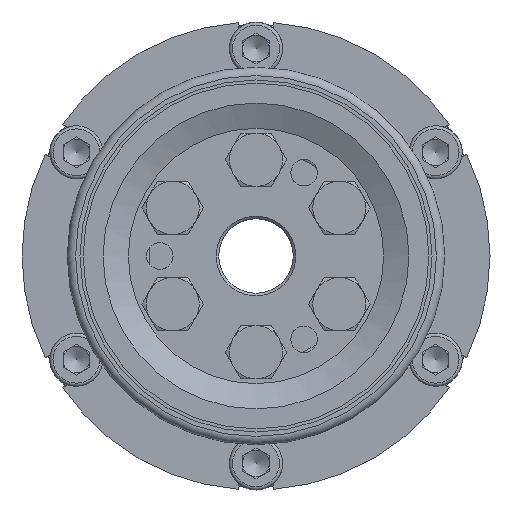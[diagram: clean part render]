
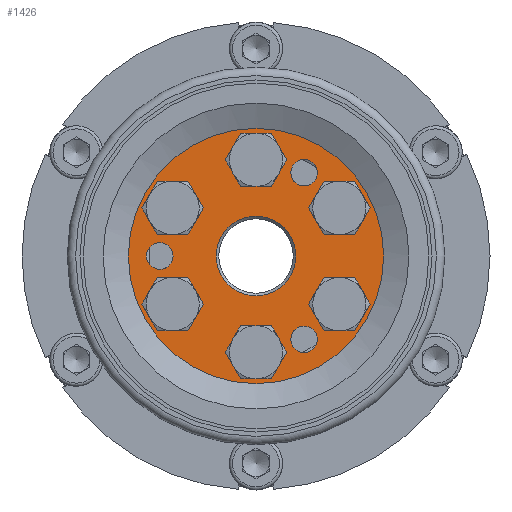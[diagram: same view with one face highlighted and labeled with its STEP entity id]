
A CAD part, left-side view. The second image highlights one B-rep face of the part: STEP entity #1426.
In plain terms, the highlighted planar face has unit normal (-1, 0, 0).
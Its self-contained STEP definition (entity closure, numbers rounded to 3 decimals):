
#1426 = ADVANCED_FACE( '', ( #3212, #3213, #3214, #3215, #3216, #3217, #3218, #3219, #3220, #3221, #3222 ), #3223, .T. );
#3212 = FACE_BOUND( '', #5262, .T. );
#3213 = FACE_OUTER_BOUND( '', #5263, .T. );
#3214 = FACE_BOUND( '', #5264, .T. );
#3215 = FACE_BOUND( '', #5265, .T. );
#3216 = FACE_BOUND( '', #5266, .T. );
#3217 = FACE_BOUND( '', #5267, .T. );
#3218 = FACE_BOUND( '', #5268, .T. );
#3219 = FACE_BOUND( '', #5269, .T. );
#3220 = FACE_BOUND( '', #5270, .T. );
#3221 = FACE_BOUND( '', #5271, .T. );
#3222 = FACE_BOUND( '', #5272, .T. );
#3223 = PLANE( '', #5273 );
#5262 = EDGE_LOOP( '', ( #9343 ) );
#5263 = EDGE_LOOP( '', ( #9344 ) );
#5264 = EDGE_LOOP( '', ( #9345 ) );
#5265 = EDGE_LOOP( '', ( #9346 ) );
#5266 = EDGE_LOOP( '', ( #9347 ) );
#5267 = EDGE_LOOP( '', ( #9348 ) );
#5268 = EDGE_LOOP( '', ( #9349 ) );
#5269 = EDGE_LOOP( '', ( #9350 ) );
#5270 = EDGE_LOOP( '', ( #9351 ) );
#5271 = EDGE_LOOP( '', ( #9352 ) );
#5272 = EDGE_LOOP( '', ( #9353 ) );
#5273 = AXIS2_PLACEMENT_3D( '', #9354, #9355, #9356 );
#9343 = ORIENTED_EDGE( '', *, *, #12387, .T. );
#9344 = ORIENTED_EDGE( '', *, *, #12067, .T. );
#9345 = ORIENTED_EDGE( '', *, *, #12388, .T. );
#9346 = ORIENTED_EDGE( '', *, *, #12199, .T. );
#9347 = ORIENTED_EDGE( '', *, *, #12389, .T. );
#9348 = ORIENTED_EDGE( '', *, *, #12177, .T. );
#9349 = ORIENTED_EDGE( '', *, *, #12390, .T. );
#9350 = ORIENTED_EDGE( '', *, *, #11569, .T. );
#9351 = ORIENTED_EDGE( '', *, *, #12391, .T. );
#9352 = ORIENTED_EDGE( '', *, *, #12392, .T. );
#9353 = ORIENTED_EDGE( '', *, *, #10805, .T. );
#9354 = CARTESIAN_POINT( '', ( -42.05, -2.75, 4.763 ) );
#9355 = DIRECTION( '', ( -1., 0., 0. ) );
#9356 = DIRECTION( '', ( 0., 1., 0. ) );
#10805 = EDGE_CURVE( '', #12681, #12681, #12682, .T. );
#11569 = EDGE_CURVE( '', #13969, #13969, #13970, .T. );
#12067 = EDGE_CURVE( '', #14688, #14688, #14689, .T. );
#12177 = EDGE_CURVE( '', #14837, #14837, #14838, .T. );
#12199 = EDGE_CURVE( '', #14868, #14868, #14869, .T. );
#12387 = EDGE_CURVE( '', #15099, #15099, #15100, .F. );
#12388 = EDGE_CURVE( '', #15101, #15101, #15102, .T. );
#12389 = EDGE_CURVE( '', #15103, #15103, #15104, .T. );
#12390 = EDGE_CURVE( '', #15105, #15105, #15106, .T. );
#12391 = EDGE_CURVE( '', #15107, #15107, #15108, .T. );
#12392 = EDGE_CURVE( '', #15109, #15109, #15110, .T. );
#12681 = VERTEX_POINT( '', #15429 );
#12682 = CIRCLE( '', #15430, 4.35 );
#13969 = VERTEX_POINT( '', #18342 );
#13970 = CIRCLE( '', #18343, 4.35 );
#14688 = VERTEX_POINT( '', #19972 );
#14689 = CIRCLE( '', #19973, 24. );
#14837 = VERTEX_POINT( '', #20238 );
#14838 = CIRCLE( '', #20239, 4.35 );
#14868 = VERTEX_POINT( '', #20284 );
#14869 = CIRCLE( '', #20285, 2.5 );
#15099 = VERTEX_POINT( '', #20675 );
#15100 = CIRCLE( '', #20676, 7.5 );
#15101 = VERTEX_POINT( '', #20677 );
#15102 = CIRCLE( '', #20678, 2.5 );
#15103 = VERTEX_POINT( '', #20679 );
#15104 = CIRCLE( '', #20680, 2.5 );
#15105 = VERTEX_POINT( '', #20681 );
#15106 = CIRCLE( '', #20682, 4.35 );
#15107 = VERTEX_POINT( '', #20683 );
#15108 = CIRCLE( '', #20684, 4.35 );
#15109 = VERTEX_POINT( '', #20685 );
#15110 = CIRCLE( '', #20686, 4.35 );
#15429 = CARTESIAN_POINT( '', ( -42.05, 15.675, -4.7 ) );
#15430 = AXIS2_PLACEMENT_3D( '', #21265, #21266, #21267 );
#18342 = CARTESIAN_POINT( '', ( -42.05, -15.675, 13.4 ) );
#18343 = AXIS2_PLACEMENT_3D( '', #22261, #22262, #22263 );
#19972 = CARTESIAN_POINT( '', ( -42.05, -12., 20.785 ) );
#19973 = AXIS2_PLACEMENT_3D( '', #22844, #22845, #22846 );
#20238 = CARTESIAN_POINT( '', ( -42.05, 0., 22.45 ) );
#20239 = AXIS2_PLACEMENT_3D( '', #22983, #22984, #22985 );
#20284 = CARTESIAN_POINT( '', ( -42.05, -6.885, 16.925 ) );
#20285 = AXIS2_PLACEMENT_3D( '', #23005, #23006, #23007 );
#20675 = CARTESIAN_POINT( '', ( -42.05, 0., 7.5 ) );
#20676 = AXIS2_PLACEMENT_3D( '', #23211, #23212, #23213 );
#20677 = CARTESIAN_POINT( '', ( -42.05, -11.215, -14.425 ) );
#20678 = AXIS2_PLACEMENT_3D( '', #23214, #23215, #23216 );
#20679 = CARTESIAN_POINT( '', ( -42.05, 18.1, -2.5 ) );
#20680 = AXIS2_PLACEMENT_3D( '', #23217, #23218, #23219 );
#20681 = CARTESIAN_POINT( '', ( -42.05, 15.675, 13.4 ) );
#20682 = AXIS2_PLACEMENT_3D( '', #23220, #23221, #23222 );
#20683 = CARTESIAN_POINT( '', ( -42.05, -15.675, -4.7 ) );
#20684 = AXIS2_PLACEMENT_3D( '', #23223, #23224, #23225 );
#20685 = CARTESIAN_POINT( '', ( -42.05, 0., -13.75 ) );
#20686 = AXIS2_PLACEMENT_3D( '', #23226, #23227, #23228 );
#21265 = CARTESIAN_POINT( '', ( -42.05, 15.675, -9.05 ) );
#21266 = DIRECTION( '', ( 1., 0., 0. ) );
#21267 = DIRECTION( '', ( 0., 0., 1. ) );
#22261 = CARTESIAN_POINT( '', ( -42.05, -15.675, 9.05 ) );
#22262 = DIRECTION( '', ( 1., 0., 0. ) );
#22263 = DIRECTION( '', ( 0., 0., 1. ) );
#22844 = CARTESIAN_POINT( '', ( -42.05, 0., 0. ) );
#22845 = DIRECTION( '', ( -1., 0., 0. ) );
#22846 = DIRECTION( '', ( 0., -0.5, 0.866 ) );
#22983 = CARTESIAN_POINT( '', ( -42.05, 0., 18.1 ) );
#22984 = DIRECTION( '', ( 1., 0., 0. ) );
#22985 = DIRECTION( '', ( 0., 0., 1. ) );
#23005 = CARTESIAN_POINT( '', ( -42.05, -9.05, 15.675 ) );
#23006 = DIRECTION( '', ( 1., 0., 0. ) );
#23007 = DIRECTION( '', ( 0., 0.866, 0.5 ) );
#23211 = CARTESIAN_POINT( '', ( -42.05, 0., 0. ) );
#23212 = DIRECTION( '', ( -1., 0., 0. ) );
#23213 = DIRECTION( '', ( 0., 0., 1. ) );
#23214 = CARTESIAN_POINT( '', ( -42.05, -9.05, -15.675 ) );
#23215 = DIRECTION( '', ( 1., 0., 0. ) );
#23216 = DIRECTION( '', ( 0., -0.866, 0.5 ) );
#23217 = CARTESIAN_POINT( '', ( -42.05, 18.1, 0. ) );
#23218 = DIRECTION( '', ( 1., 0., 0. ) );
#23219 = DIRECTION( '', ( 0., 0., -1. ) );
#23220 = CARTESIAN_POINT( '', ( -42.05, 15.675, 9.05 ) );
#23221 = DIRECTION( '', ( 1., 0., 0. ) );
#23222 = DIRECTION( '', ( 0., 0., 1. ) );
#23223 = CARTESIAN_POINT( '', ( -42.05, -15.675, -9.05 ) );
#23224 = DIRECTION( '', ( 1., 0., 0. ) );
#23225 = DIRECTION( '', ( 0., 0., 1. ) );
#23226 = CARTESIAN_POINT( '', ( -42.05, 0., -18.1 ) );
#23227 = DIRECTION( '', ( 1., 0., 0. ) );
#23228 = DIRECTION( '', ( 0., 0., 1. ) );
